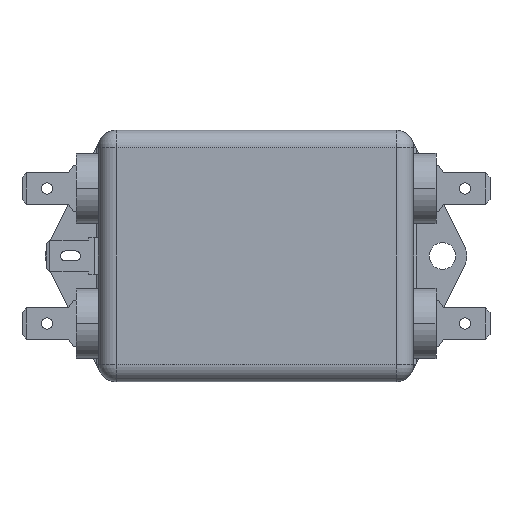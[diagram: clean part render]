
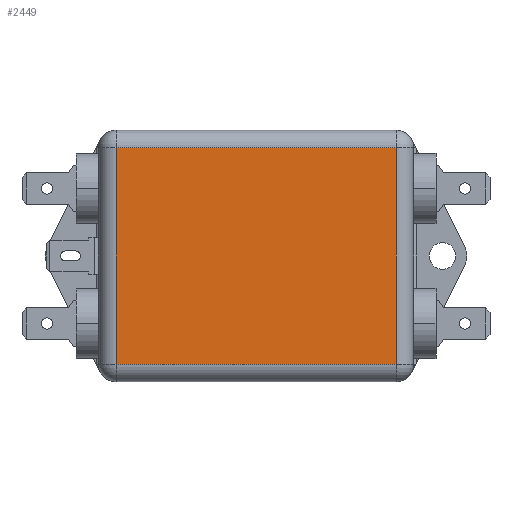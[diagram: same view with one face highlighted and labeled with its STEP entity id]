
A CAD part, front view. The second image highlights one B-rep face of the part: STEP entity #2449.
In plain terms, the highlighted planar face has unit normal (0, -1, 0).
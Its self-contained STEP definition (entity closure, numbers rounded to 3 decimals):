
#58 = LINE ( 'NONE', #6952, #8933 ) ;
#444 = DIRECTION ( 'NONE',  ( 1., 0., 0. ) ) ;
#621 = VECTOR ( 'NONE', #1062, 1000. ) ;
#722 = DIRECTION ( 'NONE',  ( 1., 0., 0. ) ) ;
#727 = EDGE_CURVE ( 'NONE', #3910, #8183, #7609, .T. ) ;
#750 = DIRECTION ( 'NONE',  ( 0., 0., -1. ) ) ;
#1062 = DIRECTION ( 'NONE',  ( 0., 0., 1. ) ) ;
#1287 = PLANE ( 'NONE',  #8789 ) ;
#1441 = ORIENTED_EDGE ( 'NONE', *, *, #727, .T. ) ;
#1705 = LINE ( 'NONE', #2491, #621 ) ;
#1806 = DIRECTION ( 'NONE',  ( -1., 0., 0. ) ) ;
#2449 = ADVANCED_FACE ( 'NONE', ( #6160 ), #1287, .F. ) ;
#2491 = CARTESIAN_POINT ( 'NONE',  ( 28., 0., 25.15 ) ) ;
#2811 = CARTESIAN_POINT ( 'NONE',  ( 28., 0., 21.65 ) ) ;
#3496 = CARTESIAN_POINT ( 'NONE',  ( -31.5, 0., -21.65 ) ) ;
#3910 = VERTEX_POINT ( 'NONE', #4167 ) ;
#3972 = CARTESIAN_POINT ( 'NONE',  ( -31.5, 0., 21.65 ) ) ;
#4091 = DIRECTION ( 'NONE',  ( 0., 1., 0. ) ) ;
#4167 = CARTESIAN_POINT ( 'NONE',  ( -28., 0., -21.65 ) ) ;
#4923 = VERTEX_POINT ( 'NONE', #5174 ) ;
#5174 = CARTESIAN_POINT ( 'NONE',  ( -28., 0., 21.65 ) ) ;
#5355 = ORIENTED_EDGE ( 'NONE', *, *, #5877, .T. ) ;
#5469 = EDGE_LOOP ( 'NONE', ( #7418, #6998, #5355, #1441 ) ) ;
#5877 = EDGE_CURVE ( 'NONE', #4923, #3910, #58, .T. ) ;
#6128 = EDGE_CURVE ( 'NONE', #6636, #4923, #8825, .T. ) ;
#6160 = FACE_OUTER_BOUND ( 'NONE', #5469, .T. ) ;
#6636 = VERTEX_POINT ( 'NONE', #2811 ) ;
#6911 = EDGE_CURVE ( 'NONE', #8183, #6636, #1705, .T. ) ;
#6952 = CARTESIAN_POINT ( 'NONE',  ( -28., 0., 25.15 ) ) ;
#6992 = VECTOR ( 'NONE', #722, 1000. ) ;
#6998 = ORIENTED_EDGE ( 'NONE', *, *, #6128, .T. ) ;
#7418 = ORIENTED_EDGE ( 'NONE', *, *, #6911, .T. ) ;
#7554 = CARTESIAN_POINT ( 'NONE',  ( -31.5, 0., 25.15 ) ) ;
#7609 = LINE ( 'NONE', #3496, #6992 ) ;
#7993 = CARTESIAN_POINT ( 'NONE',  ( 28., 0., -21.65 ) ) ;
#8183 = VERTEX_POINT ( 'NONE', #7993 ) ;
#8789 = AXIS2_PLACEMENT_3D ( 'NONE', #7554, #4091, #444 ) ;
#8825 = LINE ( 'NONE', #3972, #8907 ) ;
#8907 = VECTOR ( 'NONE', #1806, 1000. ) ;
#8933 = VECTOR ( 'NONE', #750, 1000. ) ;
